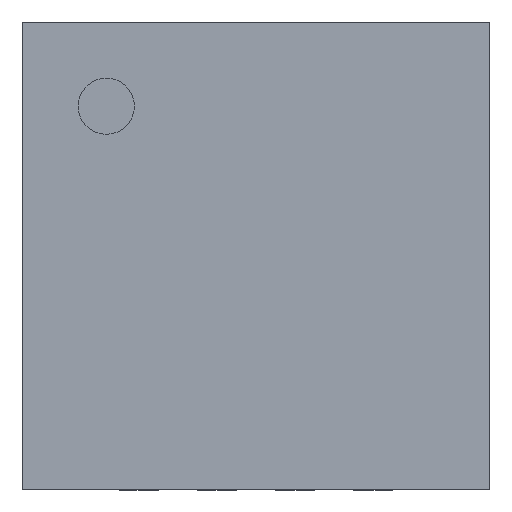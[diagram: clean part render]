
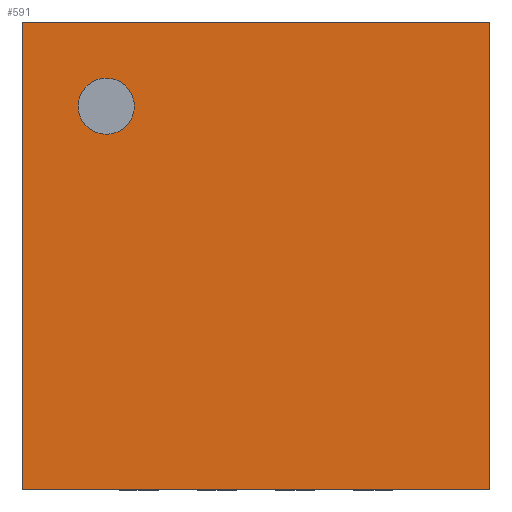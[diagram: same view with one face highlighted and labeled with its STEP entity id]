
A CAD part, top view. The second image highlights one B-rep face of the part: STEP entity #591.
In plain terms, the highlighted planar face has unit normal (0, 0, 1).
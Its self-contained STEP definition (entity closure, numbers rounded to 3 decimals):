
#47 = EDGE_CURVE('',#48,#50,#52,.T.);
#48 = VERTEX_POINT('',#49);
#49 = CARTESIAN_POINT('',(-1.5,-1.5,0.75));
#50 = VERTEX_POINT('',#51);
#51 = CARTESIAN_POINT('',(-1.5,1.5,0.75));
#52 = SURFACE_CURVE('',#53,(#57,#69),.PCURVE_S1.);
#53 = LINE('',#54,#55);
#54 = CARTESIAN_POINT('',(-1.5,-1.5,0.75));
#55 = VECTOR('',#56,1.);
#56 = DIRECTION('',(0.,1.,0.));
#57 = PCURVE('',#58,#63);
#58 = PLANE('',#59);
#59 = AXIS2_PLACEMENT_3D('',#60,#61,#62);
#60 = CARTESIAN_POINT('',(-1.5,-1.5,0.025));
#61 = DIRECTION('',(1.,0.,0.));
#62 = DIRECTION('',(0.,0.,1.));
#63 = DEFINITIONAL_REPRESENTATION('',(#64),#68);
#64 = LINE('',#65,#66);
#65 = CARTESIAN_POINT('',(0.725,0.));
#66 = VECTOR('',#67,1.);
#67 = DIRECTION('',(0.,-1.));
#68 = ( GEOMETRIC_REPRESENTATION_CONTEXT(2) 
PARAMETRIC_REPRESENTATION_CONTEXT() REPRESENTATION_CONTEXT('2D SPACE',''
  ) );
#69 = PCURVE('',#70,#75);
#70 = PLANE('',#71);
#71 = AXIS2_PLACEMENT_3D('',#72,#73,#74);
#72 = CARTESIAN_POINT('',(-1.5,-1.5,0.75));
#73 = DIRECTION('',(0.,0.,1.));
#74 = DIRECTION('',(1.,0.,0.));
#75 = DEFINITIONAL_REPRESENTATION('',(#76),#80);
#76 = LINE('',#77,#78);
#77 = CARTESIAN_POINT('',(0.,0.));
#78 = VECTOR('',#79,1.);
#79 = DIRECTION('',(0.,1.));
#80 = ( GEOMETRIC_REPRESENTATION_CONTEXT(2) 
PARAMETRIC_REPRESENTATION_CONTEXT() REPRESENTATION_CONTEXT('2D SPACE',''
  ) );
#98 = PLANE('',#99);
#99 = AXIS2_PLACEMENT_3D('',#100,#101,#102);
#100 = CARTESIAN_POINT('',(-1.5,-1.5,0.025));
#101 = DIRECTION('',(0.,1.,0.));
#102 = DIRECTION('',(0.,0.,1.));
#580 = PLANE('',#581);
#581 = AXIS2_PLACEMENT_3D('',#582,#583,#584);
#582 = CARTESIAN_POINT('',(-1.5,1.5,0.025));
#583 = DIRECTION('',(0.,1.,0.));
#584 = DIRECTION('',(0.,0.,1.));
#591 = ADVANCED_FACE('',(#592,#667),#70,.T.);
#592 = FACE_BOUND('',#593,.T.);
#593 = EDGE_LOOP('',(#594,#595,#618,#646));
#594 = ORIENTED_EDGE('',*,*,#47,.F.);
#595 = ORIENTED_EDGE('',*,*,#596,.T.);
#596 = EDGE_CURVE('',#48,#597,#599,.T.);
#597 = VERTEX_POINT('',#598);
#598 = CARTESIAN_POINT('',(1.5,-1.5,0.75));
#599 = SURFACE_CURVE('',#600,(#604,#611),.PCURVE_S1.);
#600 = LINE('',#601,#602);
#601 = CARTESIAN_POINT('',(-1.5,-1.5,0.75));
#602 = VECTOR('',#603,1.);
#603 = DIRECTION('',(1.,0.,0.));
#604 = PCURVE('',#70,#605);
#605 = DEFINITIONAL_REPRESENTATION('',(#606),#610);
#606 = LINE('',#607,#608);
#607 = CARTESIAN_POINT('',(0.,0.));
#608 = VECTOR('',#609,1.);
#609 = DIRECTION('',(1.,0.));
#610 = ( GEOMETRIC_REPRESENTATION_CONTEXT(2) 
PARAMETRIC_REPRESENTATION_CONTEXT() REPRESENTATION_CONTEXT('2D SPACE',''
  ) );
#611 = PCURVE('',#98,#612);
#612 = DEFINITIONAL_REPRESENTATION('',(#613),#617);
#613 = LINE('',#614,#615);
#614 = CARTESIAN_POINT('',(0.725,0.));
#615 = VECTOR('',#616,1.);
#616 = DIRECTION('',(0.,1.));
#617 = ( GEOMETRIC_REPRESENTATION_CONTEXT(2) 
PARAMETRIC_REPRESENTATION_CONTEXT() REPRESENTATION_CONTEXT('2D SPACE',''
  ) );
#618 = ORIENTED_EDGE('',*,*,#619,.T.);
#619 = EDGE_CURVE('',#597,#620,#622,.T.);
#620 = VERTEX_POINT('',#621);
#621 = CARTESIAN_POINT('',(1.5,1.5,0.75));
#622 = SURFACE_CURVE('',#623,(#627,#634),.PCURVE_S1.);
#623 = LINE('',#624,#625);
#624 = CARTESIAN_POINT('',(1.5,-1.5,0.75));
#625 = VECTOR('',#626,1.);
#626 = DIRECTION('',(0.,1.,0.));
#627 = PCURVE('',#70,#628);
#628 = DEFINITIONAL_REPRESENTATION('',(#629),#633);
#629 = LINE('',#630,#631);
#630 = CARTESIAN_POINT('',(3.,0.));
#631 = VECTOR('',#632,1.);
#632 = DIRECTION('',(0.,1.));
#633 = ( GEOMETRIC_REPRESENTATION_CONTEXT(2) 
PARAMETRIC_REPRESENTATION_CONTEXT() REPRESENTATION_CONTEXT('2D SPACE',''
  ) );
#634 = PCURVE('',#635,#640);
#635 = PLANE('',#636);
#636 = AXIS2_PLACEMENT_3D('',#637,#638,#639);
#637 = CARTESIAN_POINT('',(1.5,-1.5,0.025));
#638 = DIRECTION('',(1.,0.,0.));
#639 = DIRECTION('',(0.,0.,1.));
#640 = DEFINITIONAL_REPRESENTATION('',(#641),#645);
#641 = LINE('',#642,#643);
#642 = CARTESIAN_POINT('',(0.725,0.));
#643 = VECTOR('',#644,1.);
#644 = DIRECTION('',(0.,-1.));
#645 = ( GEOMETRIC_REPRESENTATION_CONTEXT(2) 
PARAMETRIC_REPRESENTATION_CONTEXT() REPRESENTATION_CONTEXT('2D SPACE',''
  ) );
#646 = ORIENTED_EDGE('',*,*,#647,.F.);
#647 = EDGE_CURVE('',#50,#620,#648,.T.);
#648 = SURFACE_CURVE('',#649,(#653,#660),.PCURVE_S1.);
#649 = LINE('',#650,#651);
#650 = CARTESIAN_POINT('',(-1.5,1.5,0.75));
#651 = VECTOR('',#652,1.);
#652 = DIRECTION('',(1.,0.,0.));
#653 = PCURVE('',#70,#654);
#654 = DEFINITIONAL_REPRESENTATION('',(#655),#659);
#655 = LINE('',#656,#657);
#656 = CARTESIAN_POINT('',(0.,3.));
#657 = VECTOR('',#658,1.);
#658 = DIRECTION('',(1.,0.));
#659 = ( GEOMETRIC_REPRESENTATION_CONTEXT(2) 
PARAMETRIC_REPRESENTATION_CONTEXT() REPRESENTATION_CONTEXT('2D SPACE',''
  ) );
#660 = PCURVE('',#580,#661);
#661 = DEFINITIONAL_REPRESENTATION('',(#662),#666);
#662 = LINE('',#663,#664);
#663 = CARTESIAN_POINT('',(0.725,0.));
#664 = VECTOR('',#665,1.);
#665 = DIRECTION('',(0.,1.));
#666 = ( GEOMETRIC_REPRESENTATION_CONTEXT(2) 
PARAMETRIC_REPRESENTATION_CONTEXT() REPRESENTATION_CONTEXT('2D SPACE',''
  ) );
#667 = FACE_BOUND('',#668,.T.);
#668 = EDGE_LOOP('',(#669));
#669 = ORIENTED_EDGE('',*,*,#670,.F.);
#670 = EDGE_CURVE('',#671,#671,#673,.T.);
#671 = VERTEX_POINT('',#672);
#672 = CARTESIAN_POINT('',(-0.78,0.96,0.75));
#673 = SURFACE_CURVE('',#674,(#679,#686),.PCURVE_S1.);
#674 = CIRCLE('',#675,0.18);
#675 = AXIS2_PLACEMENT_3D('',#676,#677,#678);
#676 = CARTESIAN_POINT('',(-0.96,0.96,0.75));
#677 = DIRECTION('',(0.,0.,1.));
#678 = DIRECTION('',(1.,0.,0.));
#679 = PCURVE('',#70,#680);
#680 = DEFINITIONAL_REPRESENTATION('',(#681),#685);
#681 = CIRCLE('',#682,0.18);
#682 = AXIS2_PLACEMENT_2D('',#683,#684);
#683 = CARTESIAN_POINT('',(0.54,2.46));
#684 = DIRECTION('',(1.,0.));
#685 = ( GEOMETRIC_REPRESENTATION_CONTEXT(2) 
PARAMETRIC_REPRESENTATION_CONTEXT() REPRESENTATION_CONTEXT('2D SPACE',''
  ) );
#686 = PCURVE('',#687,#692);
#687 = CYLINDRICAL_SURFACE('',#688,0.18);
#688 = AXIS2_PLACEMENT_3D('',#689,#690,#691);
#689 = CARTESIAN_POINT('',(-0.96,0.96,0.744));
#690 = DIRECTION('',(-0.,-0.,-1.));
#691 = DIRECTION('',(1.,0.,0.));
#692 = DEFINITIONAL_REPRESENTATION('',(#693),#697);
#693 = LINE('',#694,#695);
#694 = CARTESIAN_POINT('',(-0.,-0.006));
#695 = VECTOR('',#696,1.);
#696 = DIRECTION('',(-1.,0.));
#697 = ( GEOMETRIC_REPRESENTATION_CONTEXT(2) 
PARAMETRIC_REPRESENTATION_CONTEXT() REPRESENTATION_CONTEXT('2D SPACE',''
  ) );
